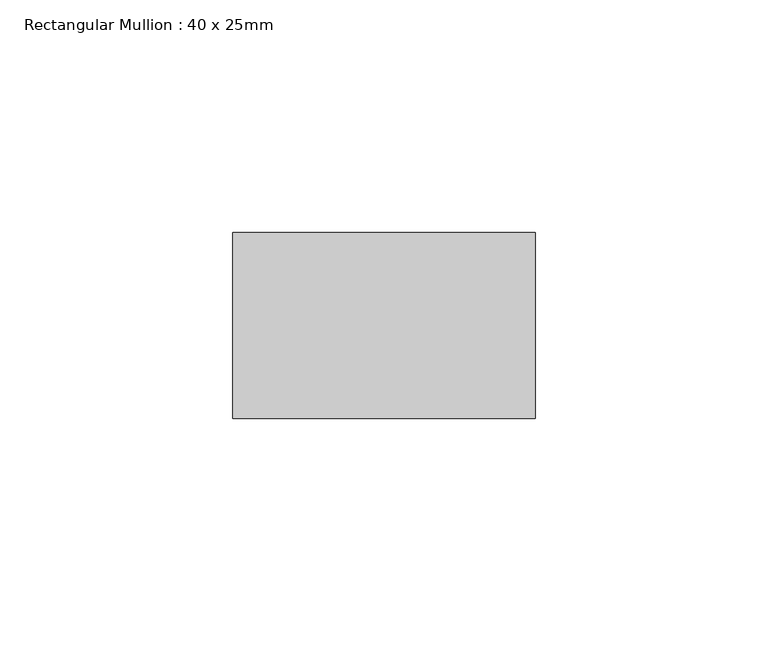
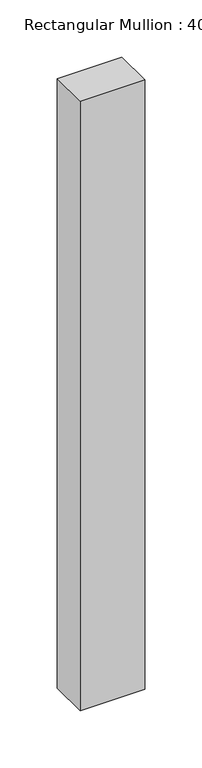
"""IFC4 building model written with IfcOpenShell, lengths in millimetres: member geometry, Rectangular Mullion : 40 x 25mm."""

import ifcopenshell
import ifcopenshell.guid

model = None  # the IFC model being written
_history = None  # IfcOwnerHistory: only IFC2X3 demands one
_inside = {}  # id of a spatial element -> (the spatial element, [elements in it])
_under = {}  # id of a project, library or spatial element -> (it, [spatial elements below it])
_declared = {}  # id of a project -> (the project, [libraries it declares])
_typed = {}  # id of a type object -> (the type object, [elements of that type])
_made_of = {}  # id of a material, layer set ... -> (it, [elements and type objects made of it])


def new_model(schema):
    """Start an empty IFC model of exactly this schema.

    Asked for "IFC4X3", IfcOpenShell would pick the latest addendum, in which some entities
    have other attributes; the version numbers below select the first issue.
    IFC2X3 requires an IfcOwnerHistory on every rooted entity: one is made here for all.
    """
    global model, _history
    if schema == "IFC4X3":
        model = ifcopenshell.file(schema_version=(4, 3, 0, 0))
    else:
        model = ifcopenshell.file(schema=schema)
    _inside.clear()
    _under.clear()
    _declared.clear()
    _typed.clear()
    _made_of.clear()
    _history = None
    if model.schema == "IFC2X3":
        org = make("IfcOrganization", Name="unknown")
        user = make(
            "IfcPersonAndOrganization",
            ThePerson=make("IfcPerson", FamilyName="unknown"),
            TheOrganization=org,
        )
        app = make(
            "IfcApplication",
            ApplicationDeveloper=org,
            Version="unknown",
            ApplicationFullName="unknown",
            ApplicationIdentifier="unknown",
        )
        _history = make(
            "IfcOwnerHistory",
            OwningUser=user,
            OwningApplication=app,
            ChangeAction="ADDED",
            CreationDate=0,
        )
    return model


def make(cls, **values):
    """One entity of the class cls with the attributes given. An attribute that is None is left unset."""
    return model.create_entity(
        cls, **{name: value for name, value in values.items() if value is not None}
    )


def rooted(cls, **values):
    """An entity with a GlobalId (a new one), such as an element, a storey or a relation."""
    return make(cls, GlobalId=ifcopenshell.guid.new(), OwnerHistory=_history, **values)


def si_unit(unit_type, name, prefix=None):
    """IfcSIUnit, for example si_unit("LENGTHUNIT", "METRE", prefix="MILLI")."""
    return make("IfcSIUnit", UnitType=unit_type, Prefix=prefix, Name=name)


def assignment(units):
    """IfcUnitAssignment: the units of a project."""
    return None if units is None else make("IfcUnitAssignment", Units=units)


def point(xyz):
    """IfcCartesianPoint."""
    return None if xyz is None else make("IfcCartesianPoint", Coordinates=xyz)


def direction(xyz):
    """IfcDirection."""
    return None if xyz is None else make("IfcDirection", DirectionRatios=xyz)


def frame(location, z_axis=None, x_axis=None):
    """IfcAxis2Placement3D, a coordinate frame: its origin and axes. An axis left out is left unset."""
    return make(
        "IfcAxis2Placement3D",
        Location=point(location),
        Axis=direction(z_axis),
        RefDirection=direction(x_axis),
    )


def origin():
    """The frame at (0, 0, 0) with its axes left unset."""
    return frame((0.0, 0.0, 0.0))


def place(relative_to, where):
    """IfcLocalPlacement: puts the frame where relative to a parent placement (None: the world)."""
    return make(
        "IfcLocalPlacement", PlacementRelTo=relative_to, RelativePlacement=where
    )


def context(
    kind, dimensions, precision=None, world=None, true_north=None, identifier=None
):
    """IfcGeometricRepresentationContext, for example the 3D "Model" context."""
    return make(
        "IfcGeometricRepresentationContext",
        ContextIdentifier=identifier,
        ContextType=kind,
        CoordinateSpaceDimension=dimensions,
        Precision=precision,
        WorldCoordinateSystem=world,
        TrueNorth=true_north,
    )


def project(units=None, contexts=None):
    """IfcProject with its units and contexts."""
    return rooted(
        "IfcProject",
        Name="project",
        RepresentationContexts=contexts,
        UnitsInContext=assignment(units),
    )


def spatial(cls, under=None, at=None, **own):
    """A site, building, storey or space (cls), placed at a placement, below another one or the project."""
    s = rooted(cls, ObjectPlacement=at, **own)
    if under is not None:
        _under.setdefault(under.id(), (under, []))[1].append(s)
    return s


def polyline(points):
    """IfcPolyline through the points."""
    return make("IfcPolyline", Points=[point(p) for p in points])


def outline(outer, holes=None, kind="AREA"):
    """IfcArbitraryClosedProfileDef: a profile drawn as a closed curve; with holes, ...WithVoids."""
    if holes is None:
        return make("IfcArbitraryClosedProfileDef", ProfileType=kind, OuterCurve=outer)
    return make(
        "IfcArbitraryProfileDefWithVoids",
        ProfileType=kind,
        OuterCurve=outer,
        InnerCurves=holes,
    )


def extrude(swept, where, along, depth):
    """IfcExtrudedAreaSolid: the profile swept, set in the frame where, extruded along a direction by depth."""
    return make(
        "IfcExtrudedAreaSolid",
        SweptArea=swept,
        Position=where,
        ExtrudedDirection=direction(along),
        Depth=depth,
    )


def shape(context_of_items, identifier, shape_type, items):
    """IfcShapeRepresentation: the items that make up one representation, for example the "Body"."""
    return make(
        "IfcShapeRepresentation",
        ContextOfItems=context_of_items,
        RepresentationIdentifier=identifier,
        RepresentationType=shape_type,
        Items=items,
    )


def source(mapping_origin, context_of_items, identifier, shape_type, items):
    """IfcRepresentationMap: a shape defined once, which mapped items show again and again."""
    return make(
        "IfcRepresentationMap",
        MappingOrigin=mapping_origin,
        MappedRepresentation=shape(context_of_items, identifier, shape_type, items),
    )


def transform(
    local_origin,
    x_axis=None,
    y_axis=None,
    z_axis=None,
    scale=None,
    scale2=None,
    scale3=None,
    uniform=True,
):
    """IfcCartesianTransformationOperator3D, or its non-uniform kind. x_axis, y_axis, z_axis: its Axis1, 2, 3."""
    if uniform:
        return make(
            "IfcCartesianTransformationOperator3D",
            Axis1=direction(x_axis),
            Axis2=direction(y_axis),
            LocalOrigin=point(local_origin),
            Scale=scale,
            Axis3=direction(z_axis),
        )
    return make(
        "IfcCartesianTransformationOperator3DnonUniform",
        Axis1=direction(x_axis),
        Axis2=direction(y_axis),
        LocalOrigin=point(local_origin),
        Scale=scale,
        Axis3=direction(z_axis),
        Scale2=scale2,
        Scale3=scale3,
    )


def mapped(mapping_source, mapping_target):
    """IfcMappedItem: shows the shape of a source again, moved by a transform."""
    return make(
        "IfcMappedItem", MappingSource=mapping_source, MappingTarget=mapping_target
    )


def made_of(thing, what):
    """Note that an element or type object is made of a material, layer set ...; save() writes the relation."""
    if what is not None:
        _made_of.setdefault(what.id(), (what, []))[1].append(thing)
    return thing


def element(
    cls,
    number,
    at=None,
    inside=None,
    cuts=None,
    type_object=None,
    material=None,
    context=None,
    identifier="Body",
    shape_type=None,
    held_by="IfcProductDefinitionShape",
    body=None,
    shapes=None,
    **own,
):
    """One element of the class cls, such as IfcWall. Its Tag is "e" and its number.

    at: its placement. inside: the storey or other place that contains it. cuts: it is an
    opening in that element (IfcRelVoidsElement). A single representation is given by context,
    identifier, shape_type and body (its items); several are given by shapes. held_by: the class
    of the entity that holds the representations. save() writes the other relations.
    """
    e = rooted(cls, Tag="e%d" % number, ObjectPlacement=at, **own)
    if body is not None:
        shapes = [shape(context, identifier, shape_type, body)]
    if shapes is not None:
        e.Representation = make(held_by, Representations=shapes)
    if inside is not None:
        _inside.setdefault(inside.id(), (inside, []))[1].append(e)
    if cuts is not None:
        rooted(
            "IfcRelVoidsElement", RelatingBuildingElement=cuts, RelatedOpeningElement=e
        )
    if type_object is not None:
        _typed.setdefault(type_object.id(), (type_object, []))[1].append(e)
    return made_of(e, material)


def aggregate(whole, parts):
    """IfcRelAggregates: a whole, such as a stair, and the parts it consists of."""
    return rooted("IfcRelAggregates", RelatingObject=whole, RelatedObjects=parts)


def save(model, path):
    """Write the relations noted so far, then the file.

    IfcRelAggregates (storeys below a building ...), IfcRelContainedInSpatialStructure (elements
    in a storey), IfcRelDefinesByType, IfcRelAssociatesMaterial and IfcRelDeclares: one each for
    every whole, place, type object, material and project.
    """
    for whole, parts in _under.values():
        aggregate(whole, parts)
    for where, things in _inside.values():
        rooted(
            "IfcRelContainedInSpatialStructure",
            RelatedElements=things,
            RelatingStructure=where,
        )
    for kind, things in _typed.values():
        rooted("IfcRelDefinesByType", RelatedObjects=things, RelatingType=kind)
    for what, things in _made_of.values():
        rooted("IfcRelAssociatesMaterial", RelatedObjects=things, RelatingMaterial=what)
    for by, libraries in _declared.values():
        rooted("IfcRelDeclares", RelatingContext=by, RelatedDefinitions=libraries)
    model.write(path)


def rectangular_mullion_40_x_25mm_b8126a4e(model_context):
    return source(origin(), model_context, "Body", "SweptSolid", [
        extrude(outline(polyline([(0.0, -20.0), (0.0, -60.0), (-65.0, -60.0), (-65.0, -20.0), (0.0, -20.0)])), frame((0.0, 0.0, -650.0), z_axis=(0.0, 0.0, 1.0), x_axis=(1.0, 0.0, 0.0)), (0.0, 0.0, 1.0), 650.0),
    ])


if __name__ == "__main__":
    model = new_model("IFC4")
    model_context = context("Model", 3, world=origin())
    ifc_project = project(units=[si_unit("LENGTHUNIT", "METRE", prefix="MILLI")], contexts=[model_context])
    site = spatial("IfcSite", under=ifc_project)
    building = spatial("IfcBuilding", under=site)
    placement = place(None, origin())
    rectangular_mullion_40_x_25mm_shape = rectangular_mullion_40_x_25mm_b8126a4e(model_context)
    element("IfcMember", 1, ObjectType="Rectangular Mullion : 40 x 25mm", at=placement, inside=building, context=model_context, shape_type="MappedRepresentation", body=[
        mapped(rectangular_mullion_40_x_25mm_shape, transform((0.0, 0.0, 0.0), x_axis=(1.0, 0.0, 0.0), y_axis=(0.0, 1.0, 0.0), z_axis=(0.0, 0.0, 1.0))),
    ])
    save(model, "model.ifc")
